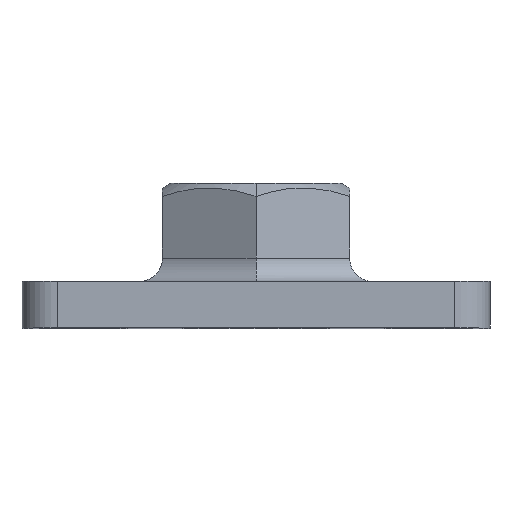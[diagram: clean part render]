
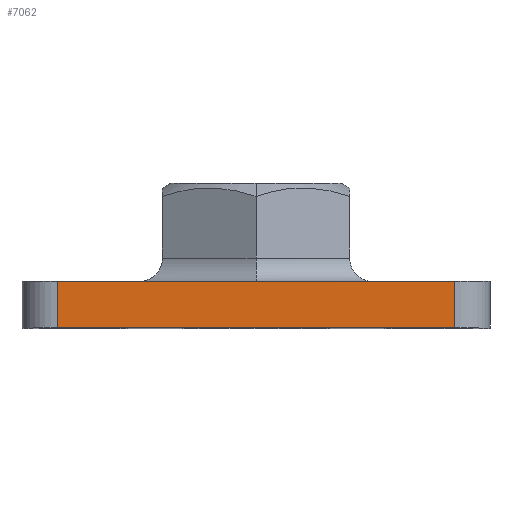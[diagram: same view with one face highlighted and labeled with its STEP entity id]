
A CAD part, top view. The second image highlights one B-rep face of the part: STEP entity #7062.
In plain terms, the highlighted planar face has unit normal (0, 0, 1).
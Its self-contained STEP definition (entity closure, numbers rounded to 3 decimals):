
#779 = EDGE_CURVE ( 'NONE', #5521, #8303, #7015, .T. ) ;
#847 = CARTESIAN_POINT ( 'NONE',  ( 17., 0., 20. ) ) ;
#1037 = PLANE ( 'NONE',  #3935 ) ;
#1143 = DIRECTION ( 'NONE',  ( -1., 0., 0. ) ) ;
#1201 = EDGE_CURVE ( 'NONE', #8216, #11168, #2182, .T. ) ;
#1650 = EDGE_CURVE ( 'NONE', #11168, #8303, #4733, .T. ) ;
#1978 = CARTESIAN_POINT ( 'NONE',  ( 17., 4., 20. ) ) ;
#2129 = VECTOR ( 'NONE', #10514, 1000. ) ;
#2182 = LINE ( 'NONE', #8907, #6800 ) ;
#3935 = AXIS2_PLACEMENT_3D ( 'NONE', #5834, #6711, #1143 ) ;
#4145 = ORIENTED_EDGE ( 'NONE', *, *, #1650, .T. ) ;
#4261 = DIRECTION ( 'NONE',  ( 1., 0., 0. ) ) ;
#4329 = EDGE_LOOP ( 'NONE', ( #8419, #4830, #10848, #4145 ) ) ;
#4733 = LINE ( 'NONE', #9379, #7584 ) ;
#4830 = ORIENTED_EDGE ( 'NONE', *, *, #8319, .T. ) ;
#5018 = VECTOR ( 'NONE', #10065, 1000. ) ;
#5521 = VERTEX_POINT ( 'NONE', #7733 ) ;
#5811 = LINE ( 'NONE', #10456, #2129 ) ;
#5834 = CARTESIAN_POINT ( 'NONE',  ( -20., 4., 20. ) ) ;
#6711 = DIRECTION ( 'NONE',  ( 0., 0., -1. ) ) ;
#6800 = VECTOR ( 'NONE', #4261, 1000. ) ;
#7015 = LINE ( 'NONE', #10729, #5018 ) ;
#7062 = ADVANCED_FACE ( 'NONE', ( #7562 ), #1037, .F. ) ;
#7201 = CARTESIAN_POINT ( 'NONE',  ( -17., 0., 20. ) ) ;
#7562 = FACE_OUTER_BOUND ( 'NONE', #4329, .T. ) ;
#7584 = VECTOR ( 'NONE', #9439, 1000. ) ;
#7733 = CARTESIAN_POINT ( 'NONE',  ( -17., 4., 20. ) ) ;
#8216 = VERTEX_POINT ( 'NONE', #7201 ) ;
#8303 = VERTEX_POINT ( 'NONE', #1978 ) ;
#8319 = EDGE_CURVE ( 'NONE', #5521, #8216, #5811, .T. ) ;
#8419 = ORIENTED_EDGE ( 'NONE', *, *, #779, .F. ) ;
#8907 = CARTESIAN_POINT ( 'NONE',  ( -20., 0., 20. ) ) ;
#9379 = CARTESIAN_POINT ( 'NONE',  ( 17., 4., 20. ) ) ;
#9439 = DIRECTION ( 'NONE',  ( 0., 1., 0. ) ) ;
#10065 = DIRECTION ( 'NONE',  ( 1., 0., 0. ) ) ;
#10456 = CARTESIAN_POINT ( 'NONE',  ( -17., 4., 20. ) ) ;
#10514 = DIRECTION ( 'NONE',  ( 0., -1., 0. ) ) ;
#10729 = CARTESIAN_POINT ( 'NONE',  ( -20., 4., 20. ) ) ;
#10848 = ORIENTED_EDGE ( 'NONE', *, *, #1201, .T. ) ;
#11168 = VERTEX_POINT ( 'NONE', #847 ) ;
